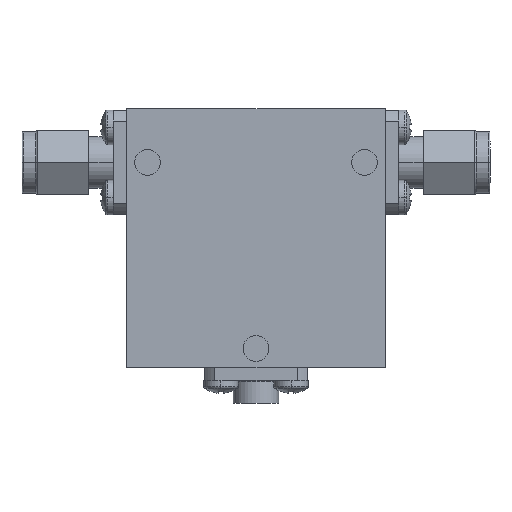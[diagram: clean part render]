
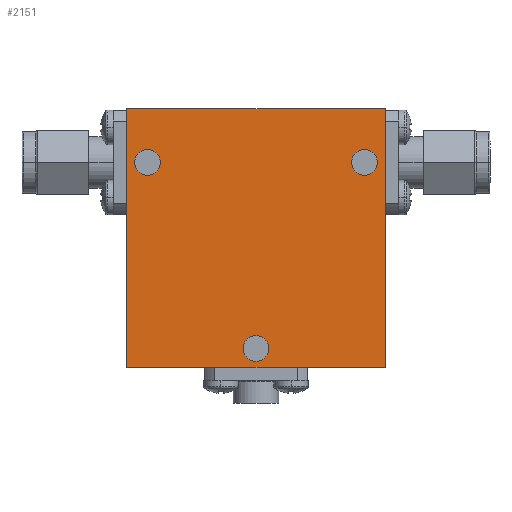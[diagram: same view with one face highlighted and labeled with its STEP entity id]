
A CAD part, top view. The second image highlights one B-rep face of the part: STEP entity #2151.
In plain terms, the highlighted planar face has unit normal (0, 0, 1) as drawn and (0, 0, -1) by its records, which use the part's own axes.
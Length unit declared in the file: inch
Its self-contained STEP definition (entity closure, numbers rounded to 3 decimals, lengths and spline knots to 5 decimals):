
#2 = CARTESIAN_POINT ( 'NONE',  ( 0.6875, 0.09, -0.25 ) ) ;
#7 = LINE ( 'NONE', #344, #896 ) ;
#25 = ORIENTED_EDGE ( 'NONE', *, *, #2497, .T. ) ;
#74 = EDGE_CURVE ( 'NONE', #1149, #511, #238, .T. ) ;
#91 = EDGE_LOOP ( 'NONE', ( #110, #2437 ) ) ;
#110 = ORIENTED_EDGE ( 'NONE', *, *, #292, .T. ) ;
#152 = DIRECTION ( 'NONE',  ( 1., 0., 0. ) ) ;
#178 = DIRECTION ( 'NONE',  ( 1., 0., 0. ) ) ;
#200 = VERTEX_POINT ( 'NONE', #2766 ) ;
#238 = LINE ( 'NONE', #2477, #2761 ) ;
#250 = DIRECTION ( 'NONE',  ( 0., 0., 1. ) ) ;
#257 = AXIS2_PLACEMENT_3D ( 'NONE', #2602, #250, #1235 ) ;
#292 = EDGE_CURVE ( 'NONE', #831, #200, #1770, .T. ) ;
#344 = CARTESIAN_POINT ( 'NONE',  ( 0., 1.25, -0.25 ) ) ;
#346 = EDGE_CURVE ( 'NONE', #4130, #3121, #1078, .T. ) ;
#349 = CARTESIAN_POINT ( 'NONE',  ( 1.2125, 0.99, -0.25 ) ) ;
#430 = CIRCLE ( 'NONE', #457, 0.0625 ) ;
#457 = AXIS2_PLACEMENT_3D ( 'NONE', #1886, #867, #178 ) ;
#505 = ORIENTED_EDGE ( 'NONE', *, *, #3264, .F. ) ;
#511 = VERTEX_POINT ( 'NONE', #2199 ) ;
#519 = DIRECTION ( 'NONE',  ( 0., 0., 1. ) ) ;
#627 = PLANE ( 'NONE',  #954 ) ;
#644 = DIRECTION ( 'NONE',  ( -1., 0., 0. ) ) ;
#758 = FACE_BOUND ( 'NONE', #3639, .T. ) ;
#831 = VERTEX_POINT ( 'NONE', #2 ) ;
#867 = DIRECTION ( 'NONE',  ( 0., 0., 1. ) ) ;
#896 = VECTOR ( 'NONE', #4047, 39.37008 ) ;
#946 = DIRECTION ( 'NONE',  ( 1., 0., 0. ) ) ;
#954 = AXIS2_PLACEMENT_3D ( 'NONE', #1988, #3302, #946 ) ;
#1003 = CARTESIAN_POINT ( 'NONE',  ( 0.0375, 0.99, -0.25 ) ) ;
#1078 = CIRCLE ( 'NONE', #2402, 0.0625 ) ;
#1149 = VERTEX_POINT ( 'NONE', #1519 ) ;
#1165 = DIRECTION ( 'NONE',  ( 1., 0., 0. ) ) ;
#1174 = CARTESIAN_POINT ( 'NONE',  ( 1.0875, 0.99, -0.25 ) ) ;
#1235 = DIRECTION ( 'NONE',  ( 1., 0., 0. ) ) ;
#1327 = FACE_BOUND ( 'NONE', #1488, .T. ) ;
#1330 = CIRCLE ( 'NONE', #1587, 0.0625 ) ;
#1409 = CARTESIAN_POINT ( 'NONE',  ( 0., 0., -0.25 ) ) ;
#1444 = DIRECTION ( 'NONE',  ( 0., 1., 0. ) ) ;
#1488 = EDGE_LOOP ( 'NONE', ( #3241, #3073 ) ) ;
#1492 = DIRECTION ( 'NONE',  ( 0., 0., 1. ) ) ;
#1519 = CARTESIAN_POINT ( 'NONE',  ( 1.25, 0., -0.25 ) ) ;
#1537 = CARTESIAN_POINT ( 'NONE',  ( 0.1625, 0.99, -0.25 ) ) ;
#1543 = CARTESIAN_POINT ( 'NONE',  ( 0.1, 0.99, -0.25 ) ) ;
#1550 = DIRECTION ( 'NONE',  ( 1., 0., 0. ) ) ;
#1587 = AXIS2_PLACEMENT_3D ( 'NONE', #3055, #3163, #1165 ) ;
#1694 = LINE ( 'NONE', #4323, #3146 ) ;
#1770 = CIRCLE ( 'NONE', #3989, 0.0625 ) ;
#1789 = ORIENTED_EDGE ( 'NONE', *, *, #4338, .T. ) ;
#1847 = EDGE_CURVE ( 'NONE', #200, #831, #1330, .T. ) ;
#1886 = CARTESIAN_POINT ( 'NONE',  ( 1.15, 0.99, -0.25 ) ) ;
#1988 = CARTESIAN_POINT ( 'NONE',  ( 0., 0., -0.25 ) ) ;
#2151 = ADVANCED_FACE ( 'NONE', ( #1327, #2945, #758, #2275 ), #627, .F. ) ;
#2199 = CARTESIAN_POINT ( 'NONE',  ( 1.25, 1.25, -0.25 ) ) ;
#2248 = VERTEX_POINT ( 'NONE', #4107 ) ;
#2275 = FACE_OUTER_BOUND ( 'NONE', #3584, .T. ) ;
#2402 = AXIS2_PLACEMENT_3D ( 'NONE', #3142, #1492, #1550 ) ;
#2424 = CARTESIAN_POINT ( 'NONE',  ( 0., 1.25, -0.25 ) ) ;
#2437 = ORIENTED_EDGE ( 'NONE', *, *, #1847, .T. ) ;
#2477 = CARTESIAN_POINT ( 'NONE',  ( 1.25, 1.25, -0.25 ) ) ;
#2497 = EDGE_CURVE ( 'NONE', #3188, #3507, #3212, .T. ) ;
#2561 = DIRECTION ( 'NONE',  ( 0., 0., 1. ) ) ;
#2602 = CARTESIAN_POINT ( 'NONE',  ( 0.1, 0.99, -0.25 ) ) ;
#2674 = AXIS2_PLACEMENT_3D ( 'NONE', #1543, #2561, #3519 ) ;
#2754 = DIRECTION ( 'NONE',  ( 1., 0., 0. ) ) ;
#2761 = VECTOR ( 'NONE', #1444, 39.37008 ) ;
#2766 = CARTESIAN_POINT ( 'NONE',  ( 0.5625, 0.09, -0.25 ) ) ;
#2787 = CIRCLE ( 'NONE', #257, 0.0625 ) ;
#2830 = ORIENTED_EDGE ( 'NONE', *, *, #3659, .F. ) ;
#2933 = VECTOR ( 'NONE', #2754, 39.37008 ) ;
#2945 = FACE_BOUND ( 'NONE', #91, .T. ) ;
#3033 = ORIENTED_EDGE ( 'NONE', *, *, #3436, .F. ) ;
#3055 = CARTESIAN_POINT ( 'NONE',  ( 0.625, 0.09, -0.25 ) ) ;
#3073 = ORIENTED_EDGE ( 'NONE', *, *, #3189, .T. ) ;
#3121 = VERTEX_POINT ( 'NONE', #1174 ) ;
#3142 = CARTESIAN_POINT ( 'NONE',  ( 1.15, 0.99, -0.25 ) ) ;
#3143 = ORIENTED_EDGE ( 'NONE', *, *, #74, .F. ) ;
#3146 = VECTOR ( 'NONE', #644, 39.37008 ) ;
#3163 = DIRECTION ( 'NONE',  ( 0., 0., 1. ) ) ;
#3188 = VERTEX_POINT ( 'NONE', #1537 ) ;
#3189 = EDGE_CURVE ( 'NONE', #3121, #4130, #430, .T. ) ;
#3212 = CIRCLE ( 'NONE', #2674, 0.0625 ) ;
#3241 = ORIENTED_EDGE ( 'NONE', *, *, #346, .T. ) ;
#3264 = EDGE_CURVE ( 'NONE', #511, #4332, #1694, .T. ) ;
#3302 = DIRECTION ( 'NONE',  ( 0., 0., 1. ) ) ;
#3436 = EDGE_CURVE ( 'NONE', #4332, #2248, #7, .T. ) ;
#3507 = VERTEX_POINT ( 'NONE', #1003 ) ;
#3519 = DIRECTION ( 'NONE',  ( 1., 0., 0. ) ) ;
#3584 = EDGE_LOOP ( 'NONE', ( #3143, #2830, #3033, #505 ) ) ;
#3639 = EDGE_LOOP ( 'NONE', ( #25, #1789 ) ) ;
#3659 = EDGE_CURVE ( 'NONE', #2248, #1149, #3887, .T. ) ;
#3842 = CARTESIAN_POINT ( 'NONE',  ( 0.625, 0.09, -0.25 ) ) ;
#3887 = LINE ( 'NONE', #1409, #2933 ) ;
#3989 = AXIS2_PLACEMENT_3D ( 'NONE', #3842, #519, #152 ) ;
#4047 = DIRECTION ( 'NONE',  ( 0., -1., 0. ) ) ;
#4107 = CARTESIAN_POINT ( 'NONE',  ( 0., 0., -0.25 ) ) ;
#4130 = VERTEX_POINT ( 'NONE', #349 ) ;
#4323 = CARTESIAN_POINT ( 'NONE',  ( 0., 1.25, -0.25 ) ) ;
#4332 = VERTEX_POINT ( 'NONE', #2424 ) ;
#4338 = EDGE_CURVE ( 'NONE', #3507, #3188, #2787, .T. ) ;
